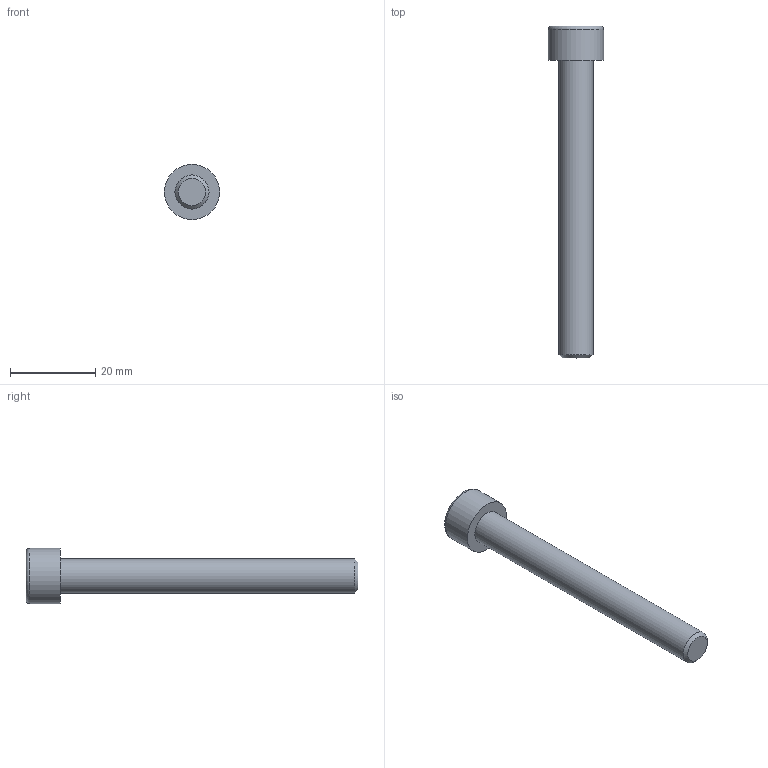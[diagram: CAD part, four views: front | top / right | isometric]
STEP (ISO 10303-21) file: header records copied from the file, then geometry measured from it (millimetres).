
FILE_DESCRIPTION(/* description */ (''),/* implementation_level */ '2;1');
FILE_NAME(/* name */ 'C:\Users\D\Documents\Inventor\各種小物\JIS\JIS B 1176 六角穴付きボルト\M8x70.stp',/* time_stamp */ '2022-05-09T18:52:22+09:00',/* author */ ('D'),/* organization */ (''),/* preprocessor_version */ 'ST-DEVELOPER v18',/* originating_system */ 'Autodesk Inventor 2020',/* authorisation */ '');
FILE_SCHEMA (('AUTOMOTIVE_DESIGN { 1 0 10303 214 3 1 1 }'));
Length unit declared in the file: millimetre
Products named in the file (1): M1.6x2.5
Bounding box: 13 x 78 x 13 mm (x, y, z)
Volume: 4418.9 mm3; surface area: 2416.7 mm2
Topology: 1 solids, 1 shells, 14 faces, 33 edges, 22 vertices
Faces by surface type: plane 9, cone 2, cylinder 2, torus 1
Full cylindrical faces by diameter (mm): 8 x1, 13 x1
Entity records: 435 total; most frequent: CARTESIAN_POINT 83, ORIENTED_EDGE 64, DIRECTION 64, EDGE_CURVE 32, AXIS2_PLACEMENT_3D 24, VERTEX_POINT 22, EDGE_LOOP 16, LINE 16
